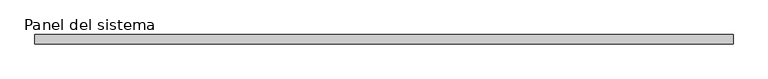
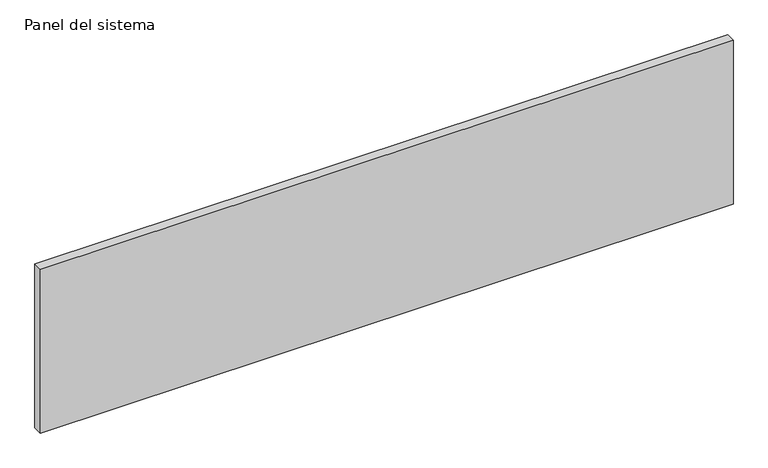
"""IFC4 building model written with IfcOpenShell, lengths in millimetres: plate geometry, Panel del sistema : Hiansa Panel - Fachada Panel PERFILADO Hor - 60mm."""

from ifc_helpers import new_model, si_unit, origin, origin_with_axes, place, context, project, spatial, polyline, outline, extrude, source, transform, mapped, element, save


def panel_del_sistema_2f3d27e1(model_context):
    return source(origin(), model_context, "Body", "SweptSolid", [
        extrude(outline(polyline([(2200.0, -60.0), (-2200.0, -60.0), (-2200.0, 0.0), (2200.0, 0.0), (2200.0, -60.0)])), origin_with_axes(), (0.0, 0.0, 1.0), 1100.0),
    ])


if __name__ == "__main__":
    model = new_model("IFC4")
    model_context = context("Model", 3, world=origin())
    ifc_project = project(units=[si_unit("LENGTHUNIT", "METRE", prefix="MILLI")], contexts=[model_context])
    site = spatial("IfcSite", under=ifc_project)
    building = spatial("IfcBuilding", under=site)
    placement = place(None, origin())
    panel_del_sistema_shape = panel_del_sistema_2f3d27e1(model_context)
    element("IfcPlate", 1, ObjectType="Panel del sistema : Hiansa Panel - Fachada Panel PERFILADO Hor - 60mm", at=placement, inside=building, context=model_context, shape_type="MappedRepresentation", body=[
        mapped(panel_del_sistema_shape, transform((0.0, 0.0, 0.0), x_axis=(1.0, 0.0, 0.0), y_axis=(0.0, 1.0, 0.0), z_axis=(0.0, 0.0, 1.0))),
    ])
    save(model, "model.ifc")
